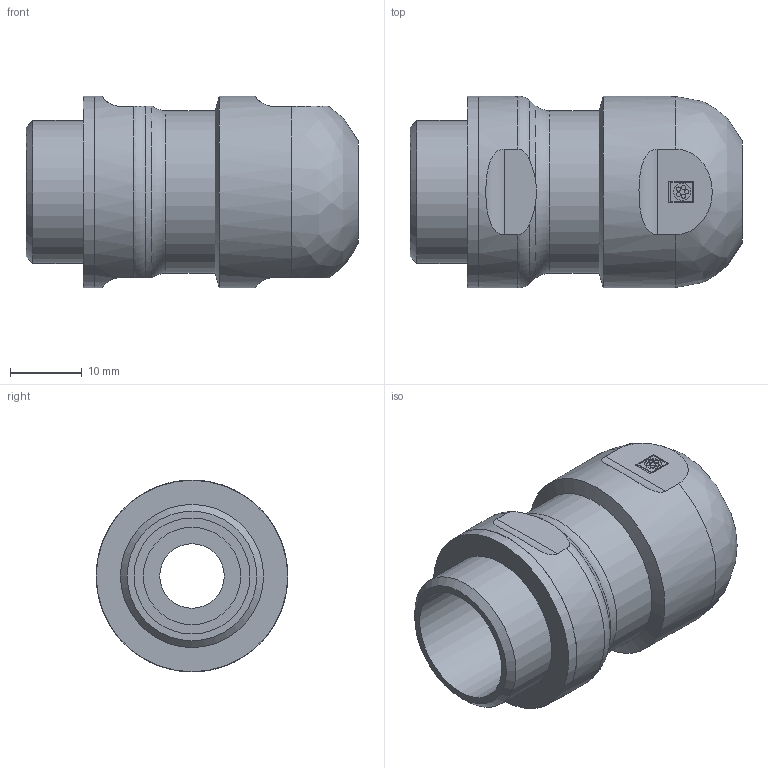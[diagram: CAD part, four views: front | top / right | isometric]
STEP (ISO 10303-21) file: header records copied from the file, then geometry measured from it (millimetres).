
FILE_DESCRIPTION( ( 'STEP AP214' ), ' ' );
FILE_NAME( 'p:/temp/worker_161/5792_4388/app_40_02017110608105702453220192d056f_000000_00_00_000000/format_0/SKINTOP Hygienic-M20x1,5 Art. Nr. 531051209.stp', '2017-11-06T07:10:57', ( '' ), ( '' ), ' ', 'PARTsolutions', ' ' );
FILE_SCHEMA( ( 'AUTOMOTIVE_DESIGN { 1 0 10303 214 1 1 1 1 }' ) );
Length unit declared in the file: millimetre
Products named in the file (1): _SKINTOP Hygienic-M20x1,5      Art. Nr. 531051209
Bounding box: 46.4 x 26.8 x 26.8 mm (x, y, z)
Volume: 13938.1 mm3; surface area: 6398.2 mm2
Topology: 1 solids, 1 shells, 58 faces, 125 edges, 82 vertices
Faces by surface type: plane 31, cylinder 19, cone 4, torus 3, bspline 1
Full cylindrical faces by diameter (mm): 0.6 x5, 2.4 x1, 9 x1, 12.3 x1, 13.6 x1, 16.2 x1, 20 x1, 22.7 x1, 26.76 x1, 26.8 x2
Entity records: 2203 total; most frequent: CARTESIAN_POINT 550, DIRECTION 240, ORIENTED_EDGE 204, EDGE_CURVE 102, AXIS2_PLACEMENT_3D 96, EDGE_LOOP 92, VERTEX_POINT 78, FACE_OUTER_BOUND 75
